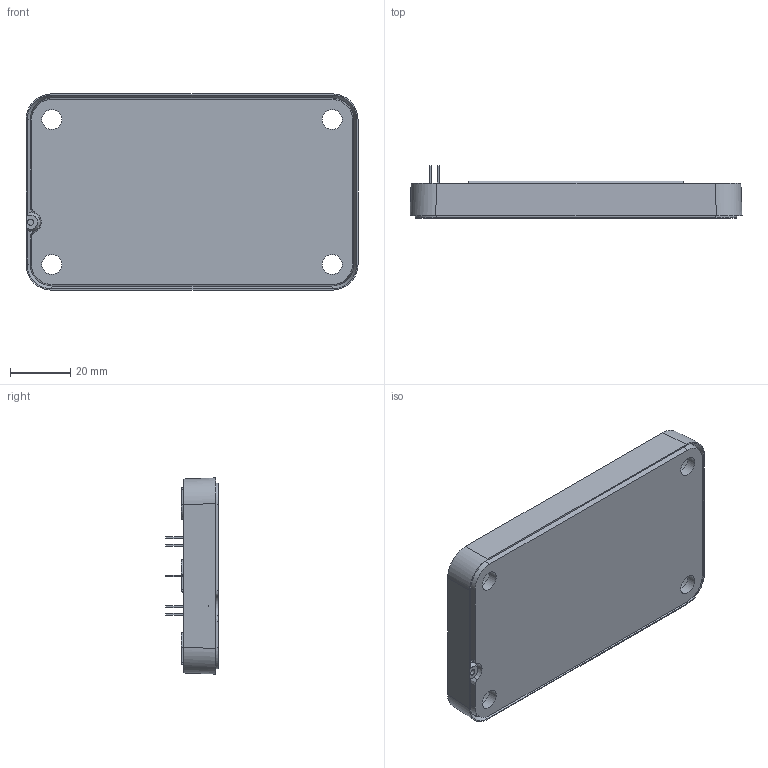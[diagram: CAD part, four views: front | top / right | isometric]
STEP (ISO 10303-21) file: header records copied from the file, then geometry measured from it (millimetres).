
FILE_DESCRIPTION (( 'STEP AP203' ), '1' );
FILE_NAME ('HM3.STEP', '2022-02-18T17:48:36', ( '' ), ( '' ), 'SwSTEP 2.0', 'SolidWorks 2018', '' );
FILE_SCHEMA (( 'CONFIG_CONTROL_DESIGN' ));
Products named in the file (2): HM3
Bounding box: 110 x 17.3 x 65 mm (x, y, z)
Volume: 43803.9 mm3; surface area: 53055.2 mm2
Topology: 23 solids, 23 shells, 3029 faces, 7681 edges, 4624 vertices
Faces by surface type: plane 1891, cylinder 721, cone 174, sphere 156, bspline 77, torus 10
Full cylindrical faces by diameter (mm): 2 x1, 6.6 x4
Entity records: 95612 total; most frequent: CARTESIAN_POINT 25215, ORIENTED_EDGE 15026, DIRECTION 13892, EDGE_CURVE 7513, LINE 5530, VECTOR 5530, VERTEX_POINT 4622, AXIS2_PLACEMENT_3D 4181
